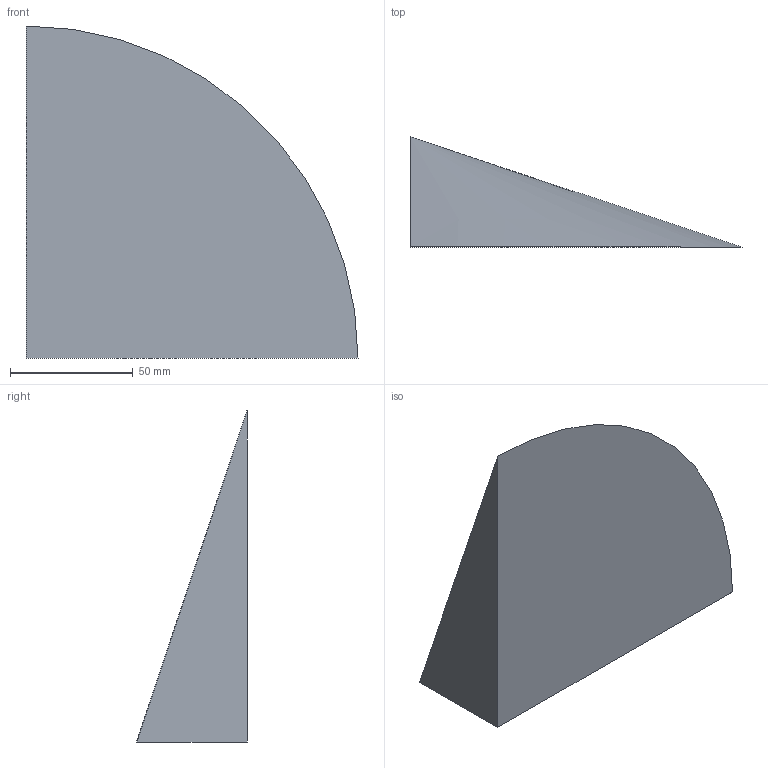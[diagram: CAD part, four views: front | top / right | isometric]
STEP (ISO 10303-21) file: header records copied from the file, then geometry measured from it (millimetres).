
FILE_DESCRIPTION(('CATIA V5 STEP Exchange'),'2;1');
FILE_NAME('C:\_Andres\UNIVERSIDAD\IQS\ASIGNATURAS\DAO\EXF\EXF-16172c\2inicio\Uria_Ciurana_Ej07_v35.stp','2017-03-05T21:18:16+00:00',('none'),('none'),'CATIA Version 5-6 Release 2014 SP1 HF18','CATIA V5 STEP AP203','none');
FILE_SCHEMA(('CONFIG_CONTROL_DESIGN'));
Length unit declared in the file: millimetre
Products named in the file (1): Uria_Ciurana_Ej07_v35
Bounding box: 135 x 45 x 135 mm (x, y, z)
Volume: 214708.2 mm3; surface area: 35477 mm2
Topology: 1 solids, 1 shells, 4 faces, 7 edges, 4 vertices
Faces by surface type: plane 3, cone 1
Entity records: 131 total; most frequent: CARTESIAN_POINT 15, DIRECTION 14, ORIENTED_EDGE 12, AXIS2_PLACEMENT_3D 6, EDGE_CURVE 6, VECTOR 5, LINE 5, ADVANCED_FACE 4
